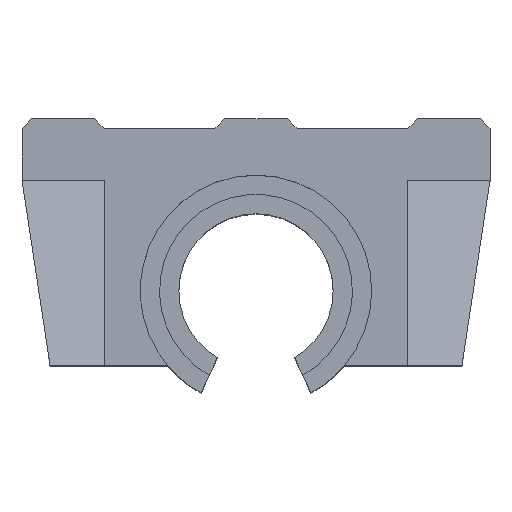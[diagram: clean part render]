
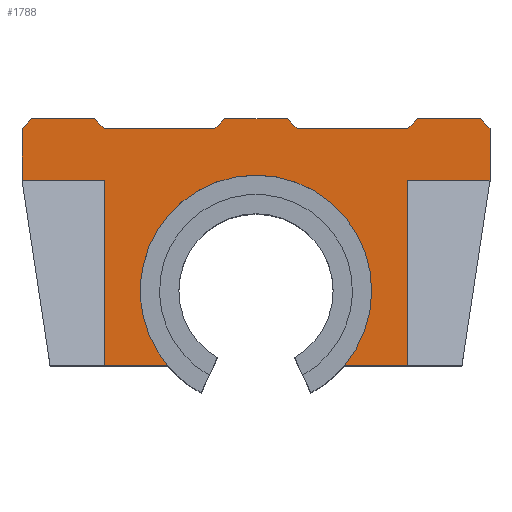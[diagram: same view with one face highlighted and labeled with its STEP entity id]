
A CAD part, top view. The second image highlights one B-rep face of the part: STEP entity #1788.
In plain terms, the highlighted planar face has unit normal (0, 0, 1).
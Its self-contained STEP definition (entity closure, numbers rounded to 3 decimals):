
#93=CARTESIAN_POINT('',(-17.188,14.52,69.5));
#94=VERTEX_POINT('',#93);
#110=CARTESIAN_POINT('',(17.188,-14.52,69.5));
#111=VERTEX_POINT('',#110);
#118=CARTESIAN_POINT('',(0.0,0.0,69.5));
#119=DIRECTION('',(0.0,0.0,1.));
#120=DIRECTION('',(-0.764,0.645,0.0));
#121=AXIS2_PLACEMENT_3D('',#118,#119,#120);
#122=CIRCLE('',#121,22.5);
#123=EDGE_CURVE('',#111,#94,#122,.T.);
#467=CARTESIAN_POINT('',(-29.5,21.48,69.5));
#468=VERTEX_POINT('',#467);
#475=CARTESIAN_POINT('',(-45.5,21.48,69.5));
#476=VERTEX_POINT('',#475);
#477=CARTESIAN_POINT('',(-45.5,21.48,69.5));
#478=DIRECTION('',(1.0,0.0,0.0));
#479=VECTOR('',#478,16.);
#480=LINE('',#477,#479);
#481=EDGE_CURVE('',#476,#468,#480,.T.);
#509=CARTESIAN_POINT('',(-29.5,-14.52,69.5));
#510=VERTEX_POINT('',#509);
#517=CARTESIAN_POINT('',(-29.5,21.48,69.5));
#518=DIRECTION('',(0.0,-1.0,0.0));
#519=VECTOR('',#518,36.);
#520=LINE('',#517,#519);
#521=EDGE_CURVE('',#468,#510,#520,.T.);
#816=CARTESIAN_POINT('',(-17.188,-14.52,69.5));
#817=VERTEX_POINT('',#816);
#824=CARTESIAN_POINT('',(-17.188,-14.52,69.5));
#825=DIRECTION('',(-1.0,0.0,0.0));
#826=VECTOR('',#825,12.312);
#827=LINE('',#824,#826);
#828=EDGE_CURVE('',#817,#510,#827,.T.);
#878=CARTESIAN_POINT('',(29.5,21.48,69.5));
#879=VERTEX_POINT('',#878);
#887=CARTESIAN_POINT('',(45.5,21.48,69.5));
#888=VERTEX_POINT('',#887);
#895=CARTESIAN_POINT('',(29.5,21.48,69.5));
#896=DIRECTION('',(1.0,0.0,0.0));
#897=VECTOR('',#896,16.);
#898=LINE('',#895,#897);
#899=EDGE_CURVE('',#879,#888,#898,.T.);
#921=CARTESIAN_POINT('',(29.5,-14.52,69.5));
#922=VERTEX_POINT('',#921);
#923=CARTESIAN_POINT('',(29.5,-14.52,69.5));
#924=DIRECTION('',(0.0,1.0,0.0));
#925=VECTOR('',#924,36.);
#926=LINE('',#923,#925);
#927=EDGE_CURVE('',#922,#879,#926,.T.);
#1204=CARTESIAN_POINT('',(-45.5,31.56,69.5));
#1205=VERTEX_POINT('',#1204);
#1212=CARTESIAN_POINT('',(-43.58,33.48,69.5));
#1213=VERTEX_POINT('',#1212);
#1214=CARTESIAN_POINT('',(-45.5,31.56,69.5));
#1215=DIRECTION('',(0.707,0.707,0.0));
#1216=VECTOR('',#1215,2.715);
#1217=LINE('',#1214,#1216);
#1218=EDGE_CURVE('',#1205,#1213,#1217,.T.);
#1244=CARTESIAN_POINT('',(-45.5,21.48,69.5));
#1245=DIRECTION('',(0.0,1.0,0.0));
#1246=VECTOR('',#1245,10.08);
#1247=LINE('',#1244,#1246);
#1248=EDGE_CURVE('',#476,#1205,#1247,.T.);
#1258=CARTESIAN_POINT('',(43.58,33.48,69.5));
#1259=VERTEX_POINT('',#1258);
#1260=CARTESIAN_POINT('',(45.5,31.56,69.5));
#1261=VERTEX_POINT('',#1260);
#1262=CARTESIAN_POINT('',(43.58,33.48,69.5));
#1263=DIRECTION('',(0.707,-0.707,0.0));
#1264=VECTOR('',#1263,2.715);
#1265=LINE('',#1262,#1264);
#1266=EDGE_CURVE('',#1259,#1261,#1265,.T.);
#1291=CARTESIAN_POINT('',(31.42,33.48,69.5));
#1292=VERTEX_POINT('',#1291);
#1299=CARTESIAN_POINT('',(31.42,33.48,69.5));
#1300=DIRECTION('',(1.0,0.0,0.0));
#1301=VECTOR('',#1300,12.16);
#1302=LINE('',#1299,#1301);
#1303=EDGE_CURVE('',#1292,#1259,#1302,.T.);
#1334=CARTESIAN_POINT('',(6.08,33.48,69.5));
#1335=VERTEX_POINT('',#1334);
#1342=CARTESIAN_POINT('',(8.,31.56,69.5));
#1343=VERTEX_POINT('',#1342);
#1344=CARTESIAN_POINT('',(6.08,33.48,69.5));
#1345=DIRECTION('',(0.707,-0.707,0.0));
#1346=VECTOR('',#1345,2.715);
#1347=LINE('',#1344,#1346);
#1348=EDGE_CURVE('',#1335,#1343,#1347,.T.);
#1366=CARTESIAN_POINT('',(-6.08,33.48,69.5));
#1367=VERTEX_POINT('',#1366);
#1374=CARTESIAN_POINT('',(-6.08,33.48,69.5));
#1375=DIRECTION('',(1.0,0.0,0.0));
#1376=VECTOR('',#1375,12.16);
#1377=LINE('',#1374,#1376);
#1378=EDGE_CURVE('',#1367,#1335,#1377,.T.);
#1388=CARTESIAN_POINT('',(-8.,31.56,69.5));
#1389=VERTEX_POINT('',#1388);
#1390=CARTESIAN_POINT('',(-8.,31.56,69.5));
#1391=DIRECTION('',(0.707,0.707,0.0));
#1392=VECTOR('',#1391,2.715);
#1393=LINE('',#1390,#1392);
#1394=EDGE_CURVE('',#1389,#1367,#1393,.T.);
#1412=CARTESIAN_POINT('',(29.5,31.56,69.5));
#1413=VERTEX_POINT('',#1412);
#1414=CARTESIAN_POINT('',(29.5,31.56,69.5));
#1415=DIRECTION('',(0.707,0.707,0.0));
#1416=VECTOR('',#1415,2.715);
#1417=LINE('',#1414,#1416);
#1418=EDGE_CURVE('',#1413,#1292,#1417,.T.);
#1437=CARTESIAN_POINT('',(-31.42,33.48,69.5));
#1438=VERTEX_POINT('',#1437);
#1445=CARTESIAN_POINT('',(-29.5,31.56,69.5));
#1446=VERTEX_POINT('',#1445);
#1447=CARTESIAN_POINT('',(-31.42,33.48,69.5));
#1448=DIRECTION('',(0.707,-0.707,0.0));
#1449=VECTOR('',#1448,2.715);
#1450=LINE('',#1447,#1449);
#1451=EDGE_CURVE('',#1438,#1446,#1450,.T.);
#1468=CARTESIAN_POINT('',(-43.58,33.48,69.5));
#1469=DIRECTION('',(1.0,0.0,0.0));
#1470=VECTOR('',#1469,12.16);
#1471=LINE('',#1468,#1470);
#1472=EDGE_CURVE('',#1213,#1438,#1471,.T.);
#1506=CARTESIAN_POINT('',(-8.,31.56,69.5));
#1507=DIRECTION('',(-1.0,0.0,0.0));
#1508=VECTOR('',#1507,21.5);
#1509=LINE('',#1506,#1508);
#1510=EDGE_CURVE('',#1389,#1446,#1509,.T.);
#1523=CARTESIAN_POINT('',(29.5,31.56,69.5));
#1524=DIRECTION('',(-1.0,0.0,0.0));
#1525=VECTOR('',#1524,21.5);
#1526=LINE('',#1523,#1525);
#1527=EDGE_CURVE('',#1413,#1343,#1526,.T.);
#1638=CARTESIAN_POINT('',(29.5,-14.52,69.5));
#1639=DIRECTION('',(-1.0,0.0,0.0));
#1640=VECTOR('',#1639,12.312);
#1641=LINE('',#1638,#1640);
#1642=EDGE_CURVE('',#922,#111,#1641,.T.);
#1723=CARTESIAN_POINT('',(0.0,0.0,69.5));
#1724=DIRECTION('',(0.0,0.0,1.));
#1725=DIRECTION('',(-0.764,0.645,0.0));
#1726=AXIS2_PLACEMENT_3D('',#1723,#1724,#1725);
#1727=CIRCLE('',#1726,22.5);
#1728=EDGE_CURVE('',#94,#817,#1727,.T.);
#1747=CARTESIAN_POINT('',(45.5,31.56,69.5));
#1748=DIRECTION('',(0.0,-1.0,0.0));
#1749=VECTOR('',#1748,10.08);
#1750=LINE('',#1747,#1749);
#1751=EDGE_CURVE('',#1261,#888,#1750,.T.);
#1760=CARTESIAN_POINT('',(0.,11.472,69.5));
#1761=DIRECTION('',(0.0,0.0,1.0));
#1762=DIRECTION('',(1.0,0.0,0.0));
#1763=AXIS2_PLACEMENT_3D('',#1760,#1761,#1762);
#1764=PLANE('',#1763);
#1765=ORIENTED_EDGE('',*,*,#521,.T.);
#1766=ORIENTED_EDGE('',*,*,#828,.F.);
#1767=ORIENTED_EDGE('',*,*,#1728,.F.);
#1768=ORIENTED_EDGE('',*,*,#123,.F.);
#1769=ORIENTED_EDGE('',*,*,#1642,.F.);
#1770=ORIENTED_EDGE('',*,*,#927,.T.);
#1771=ORIENTED_EDGE('',*,*,#899,.T.);
#1772=ORIENTED_EDGE('',*,*,#1751,.F.);
#1773=ORIENTED_EDGE('',*,*,#1266,.F.);
#1774=ORIENTED_EDGE('',*,*,#1303,.F.);
#1775=ORIENTED_EDGE('',*,*,#1418,.F.);
#1776=ORIENTED_EDGE('',*,*,#1527,.T.);
#1777=ORIENTED_EDGE('',*,*,#1348,.F.);
#1778=ORIENTED_EDGE('',*,*,#1378,.F.);
#1779=ORIENTED_EDGE('',*,*,#1394,.F.);
#1780=ORIENTED_EDGE('',*,*,#1510,.T.);
#1781=ORIENTED_EDGE('',*,*,#1451,.F.);
#1782=ORIENTED_EDGE('',*,*,#1472,.F.);
#1783=ORIENTED_EDGE('',*,*,#1218,.F.);
#1784=ORIENTED_EDGE('',*,*,#1248,.F.);
#1785=ORIENTED_EDGE('',*,*,#481,.T.);
#1786=EDGE_LOOP('',(#1765,#1766,#1767,#1768,#1769,#1770,#1771,#1772,#1773,#1774,#1775,#1776,#1777,#1778,#1779,#1780,#1781,#1782,#1783,#1784,#1785));
#1787=FACE_OUTER_BOUND('',#1786,.T.);
#1788=ADVANCED_FACE('',(#1787),#1764,.T.);
